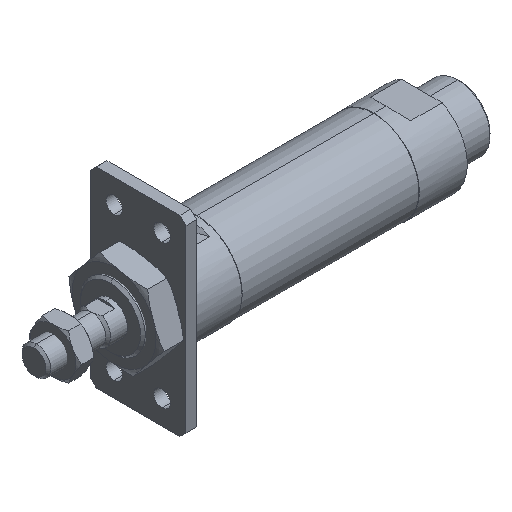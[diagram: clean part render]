
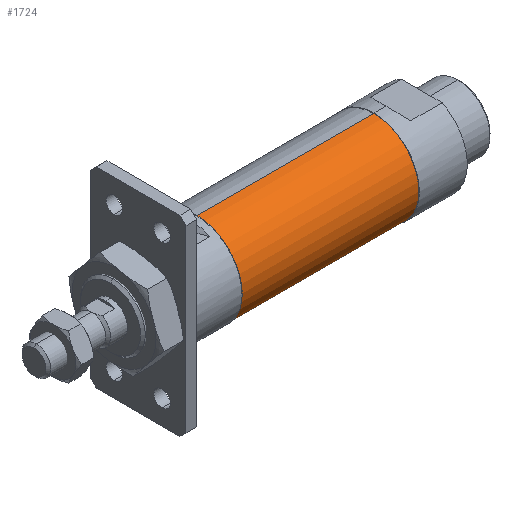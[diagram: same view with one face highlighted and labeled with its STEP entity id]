
A CAD part, isometric view. The second image highlights one B-rep face of the part: STEP entity #1724.
In plain terms, the highlighted cylindrical face has radius 18.8 mm (diameter 37.6 mm), a partial arc.
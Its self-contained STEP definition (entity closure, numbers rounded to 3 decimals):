
#77 = AXIS2_PLACEMENT_3D ( 'NONE', #3852, #2227, #868 ) ;
#206 = DIRECTION ( 'NONE',  ( -1., 0., 0. ) ) ;
#214 = VERTEX_POINT ( 'NONE', #1420 ) ;
#262 = ORIENTED_EDGE ( 'NONE', *, *, #315, .T. ) ;
#315 = EDGE_CURVE ( 'NONE', #214, #3933, #3242, .T. ) ;
#503 = ORIENTED_EDGE ( 'NONE', *, *, #2973, .F. ) ;
#555 = EDGE_CURVE ( 'NONE', #2940, #214, #3658, .T. ) ;
#828 = VERTEX_POINT ( 'NONE', #2515 ) ;
#868 = DIRECTION ( 'NONE',  ( 0., 0., 1. ) ) ;
#969 = CIRCLE ( 'NONE', #2028, 18.8 ) ;
#1006 = DIRECTION ( 'NONE',  ( -1., 0., 0. ) ) ;
#1281 = FACE_OUTER_BOUND ( 'NONE', #2966, .T. ) ;
#1420 = CARTESIAN_POINT ( 'NONE',  ( 142., 0., 18.8 ) ) ;
#1724 = ADVANCED_FACE ( 'NONE', ( #1281 ), #2162, .T. ) ;
#1754 = ORIENTED_EDGE ( 'NONE', *, *, #1846, .F. ) ;
#1817 = VECTOR ( 'NONE', #206, 1000. ) ;
#1846 = EDGE_CURVE ( 'NONE', #828, #3933, #969, .T. ) ;
#1854 = ORIENTED_EDGE ( 'NONE', *, *, #555, .T. ) ;
#1957 = DIRECTION ( 'NONE',  ( -1., 0., 0. ) ) ;
#2028 = AXIS2_PLACEMENT_3D ( 'NONE', #3424, #3769, #2483 ) ;
#2079 = DIRECTION ( 'NONE',  ( 0., 0., 1. ) ) ;
#2162 = CYLINDRICAL_SURFACE ( 'NONE', #77, 18.8 ) ;
#2227 = DIRECTION ( 'NONE',  ( -1., 0., 0. ) ) ;
#2483 = DIRECTION ( 'NONE',  ( 0., 0., 1. ) ) ;
#2515 = CARTESIAN_POINT ( 'NONE',  ( 68., 0., -18.8 ) ) ;
#2940 = VERTEX_POINT ( 'NONE', #3426 ) ;
#2966 = EDGE_LOOP ( 'NONE', ( #503, #1854, #262, #1754 ) ) ;
#2973 = EDGE_CURVE ( 'NONE', #2940, #828, #3129, .T. ) ;
#3129 = LINE ( 'NONE', #3610, #1817 ) ;
#3242 = LINE ( 'NONE', #3794, #3447 ) ;
#3424 = CARTESIAN_POINT ( 'NONE',  ( 68., 0., 0. ) ) ;
#3426 = CARTESIAN_POINT ( 'NONE',  ( 142., 0., -18.8 ) ) ;
#3447 = VECTOR ( 'NONE', #1957, 1000. ) ;
#3601 = CARTESIAN_POINT ( 'NONE',  ( 68., 0., 18.8 ) ) ;
#3610 = CARTESIAN_POINT ( 'NONE',  ( -1.784, 0., -18.8 ) ) ;
#3658 = CIRCLE ( 'NONE', #3706, 18.8 ) ;
#3706 = AXIS2_PLACEMENT_3D ( 'NONE', #4044, #1006, #2079 ) ;
#3769 = DIRECTION ( 'NONE',  ( -1., 0., 0. ) ) ;
#3794 = CARTESIAN_POINT ( 'NONE',  ( -1.784, 0., 18.8 ) ) ;
#3852 = CARTESIAN_POINT ( 'NONE',  ( -1.784, 0., 0. ) ) ;
#3933 = VERTEX_POINT ( 'NONE', #3601 ) ;
#4044 = CARTESIAN_POINT ( 'NONE',  ( 142., 0., 0. ) ) ;
